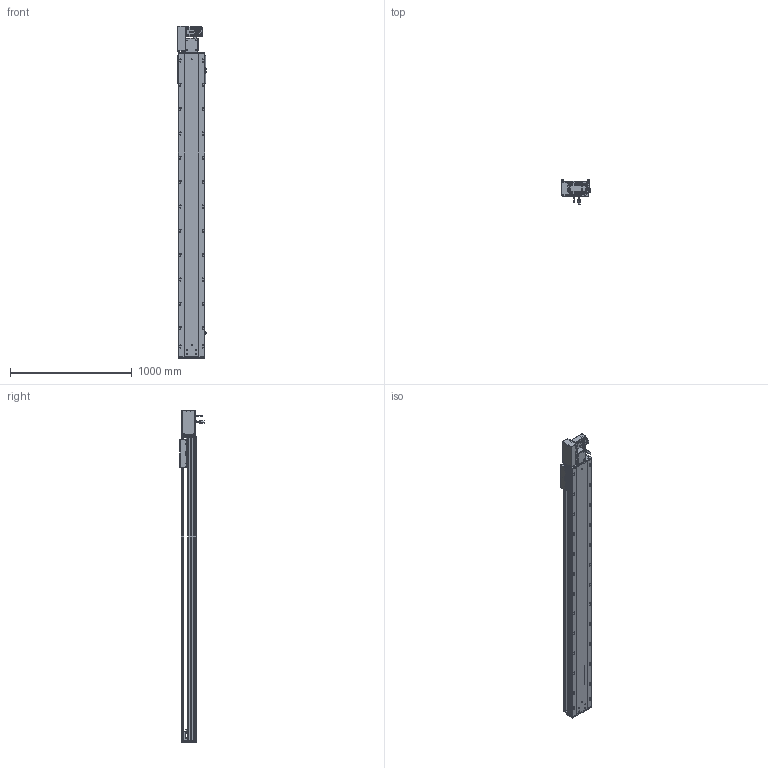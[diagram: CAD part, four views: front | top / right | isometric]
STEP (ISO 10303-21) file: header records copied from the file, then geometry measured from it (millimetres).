
FILE_DESCRIPTION (( 'STEP AP203' ), '1' );
FILE_NAME ('RY220-T-300-LK.SLDASM_2150.step', '2022-07-25T08:15:26', ( '' ), ( '' ), 'SwSTEP 2.0', 'SolidWorks 2016', '' );
FILE_SCHEMA (( 'CONFIG_CONTROL_DESIGN' ));
Length unit declared in the file: millimetre
Products named in the file (14): RY220-T-300-LK.SLDASM_2150; RY220翋肮祭謫釱; RY220-同步轮副支撑座6304×2; RY220-T-蛌殏萇儂假蚾啣(750W); RY220-T-湍謫欶(鍼踢); 110A-T-肮祭謫釱傷裔; RY220-T-300-奻裔啣_2150; RY220-俋离672覜茼んえ; 怢湛750W_ECMA-CX0807ES; 覜茼ん672; RY220-T菁釱-300_2150; RY220翋肮祭謫裔啣; RY220圉猾敕々湍臏賑輸; 滅袉蝶18-15
Assembly tree (18 placements, depth 2):
  RY220-T-300-LK.SLDASM_2150
    RY220-T菁釱-300_2150
    RY220翋肮祭謫釱
    覜茼ん672  x3
    RY220圉猾敕々湍臏賑輸
    RY220-T-300-奻裔啣_2150
    RY220-俋离672覜茼んえ
    滅袉蝶18-15  x3
    RY220翋肮祭謫裔啣  x2
    110A-T-肮祭謫釱傷裔
    怢湛750W_ECMA-CX0807ES
    RY220-T-湍謫欶(鍼踢)
    RY220-T-蛌殏萇儂假蚾啣(750W)
    RY220-同步轮副支撑座6304×2
Bounding box: 239.7 x 198.77 x 2729 mm (x, y, z)
Volume: 19702618.9 mm3; surface area: 6006176.4 mm2
Topology: 19 solids, 19 shells, 2860 faces, 7903 edges, 4972 vertices
Faces by surface type: cylinder 1384, plane 1069, cone 325, bspline 56, sphere 16, torus 10
Entity records: 95267 total; most frequent: CARTESIAN_POINT 26975, ORIENTED_EDGE 14138, DIRECTION 13548, EDGE_CURVE 7069, AXIS2_PLACEMENT_3D 4854, VERTEX_POINT 4596, VECTOR 3840, LINE 3840
